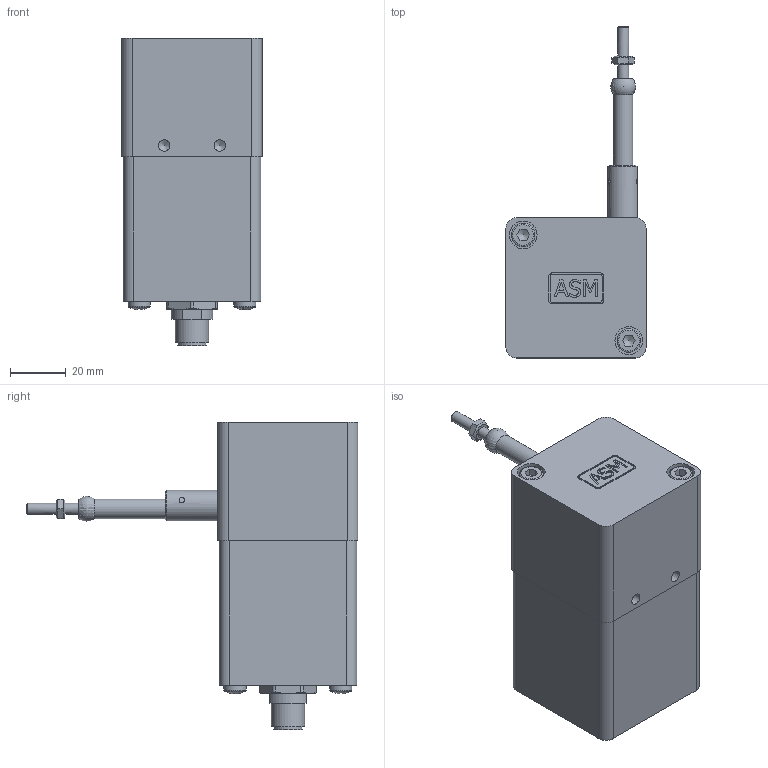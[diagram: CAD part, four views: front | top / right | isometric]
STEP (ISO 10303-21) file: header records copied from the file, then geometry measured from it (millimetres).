
FILE_DESCRIPTION((''),'2;1');
FILE_NAME('K:\Daten\WS10-M4.stp','2009-12-08T08:29:11',('kamp'),(''),'Autodesk Inventor 2008','Autodesk Inventor 2008','');
FILE_SCHEMA(('AUTOMOTIVE_DESIGN { 1 0 10303 214 1 1 1 1 }'));
Length unit declared in the file: millimetre
Products named in the file (1): Bauteil11
Bounding box: 50.35 x 119.35 x 110.4 mm (x, y, z)
Volume: 238650.2 mm3; surface area: 27406.2 mm2
Topology: 1 solids, 1 shells, 253 faces, 647 edges, 427 vertices
Faces by surface type: plane 139, bspline 54, cylinder 46, cone 11, torus 2, sphere 1
Full cylindrical faces by diameter (mm): 0.6 x8, 4 x2, 7 x1, 8 x2, 8.5 x2, 10.4 x1, 12 x1
Entity records: 8114 total; most frequent: CARTESIAN_POINT 2719, ORIENTED_EDGE 1130, DIRECTION 964, EDGE_CURVE 565, VERTEX_POINT 398, EDGE_LOOP 337, AXIS2_PLACEMENT_3D 328, VECTOR 308
